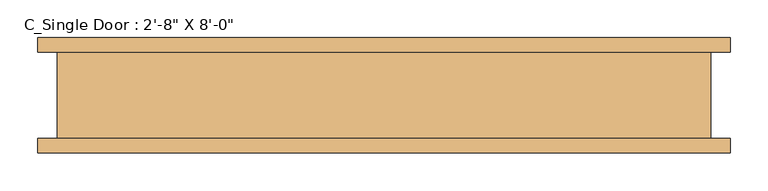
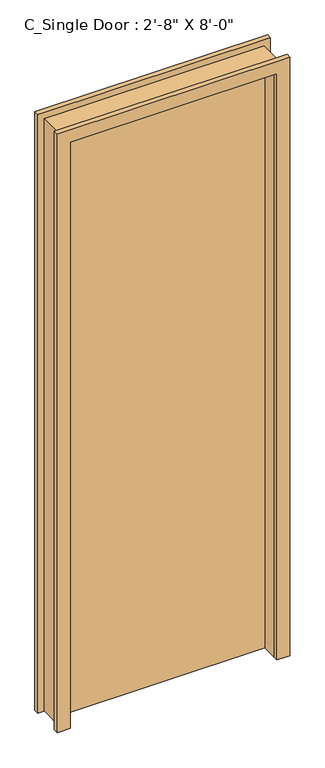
"""IFC4 building model written with IfcOpenShell, lengths in millimetres: door geometry."""

import ifcopenshell
import ifcopenshell.guid

model = None  # the IFC model being written
_history = None  # IfcOwnerHistory: only IFC2X3 demands one
_inside = {}  # id of a spatial element -> (the spatial element, [elements in it])
_under = {}  # id of a project, library or spatial element -> (it, [spatial elements below it])
_declared = {}  # id of a project -> (the project, [libraries it declares])
_typed = {}  # id of a type object -> (the type object, [elements of that type])
_made_of = {}  # id of a material, layer set ... -> (it, [elements and type objects made of it])


def new_model(schema):
    """Start an empty IFC model of exactly this schema.

    Asked for "IFC4X3", IfcOpenShell would pick the latest addendum, in which some entities
    have other attributes; the version numbers below select the first issue.
    IFC2X3 requires an IfcOwnerHistory on every rooted entity: one is made here for all.
    """
    global model, _history
    if schema == "IFC4X3":
        model = ifcopenshell.file(schema_version=(4, 3, 0, 0))
    else:
        model = ifcopenshell.file(schema=schema)
    _inside.clear()
    _under.clear()
    _declared.clear()
    _typed.clear()
    _made_of.clear()
    _history = None
    if model.schema == "IFC2X3":
        org = make("IfcOrganization", Name="unknown")
        user = make(
            "IfcPersonAndOrganization",
            ThePerson=make("IfcPerson", FamilyName="unknown"),
            TheOrganization=org,
        )
        app = make(
            "IfcApplication",
            ApplicationDeveloper=org,
            Version="unknown",
            ApplicationFullName="unknown",
            ApplicationIdentifier="unknown",
        )
        _history = make(
            "IfcOwnerHistory",
            OwningUser=user,
            OwningApplication=app,
            ChangeAction="ADDED",
            CreationDate=0,
        )
    return model


def make(cls, **values):
    """One entity of the class cls with the attributes given. An attribute that is None is left unset."""
    return model.create_entity(
        cls, **{name: value for name, value in values.items() if value is not None}
    )


def rooted(cls, **values):
    """An entity with a GlobalId (a new one), such as an element, a storey or a relation."""
    return make(cls, GlobalId=ifcopenshell.guid.new(), OwnerHistory=_history, **values)


def si_unit(unit_type, name, prefix=None):
    """IfcSIUnit, for example si_unit("LENGTHUNIT", "METRE", prefix="MILLI")."""
    return make("IfcSIUnit", UnitType=unit_type, Prefix=prefix, Name=name)


def assignment(units):
    """IfcUnitAssignment: the units of a project."""
    return None if units is None else make("IfcUnitAssignment", Units=units)


def point(xyz):
    """IfcCartesianPoint."""
    return None if xyz is None else make("IfcCartesianPoint", Coordinates=xyz)


def direction(xyz):
    """IfcDirection."""
    return None if xyz is None else make("IfcDirection", DirectionRatios=xyz)


def frame(location, z_axis=None, x_axis=None):
    """IfcAxis2Placement3D, a coordinate frame: its origin and axes. An axis left out is left unset."""
    return make(
        "IfcAxis2Placement3D",
        Location=point(location),
        Axis=direction(z_axis),
        RefDirection=direction(x_axis),
    )


def origin():
    """The frame at (0, 0, 0) with its axes left unset."""
    return frame((0.0, 0.0, 0.0))


def origin_with_axes():
    """The frame at (0, 0, 0) with the z axis (0, 0, 1) and the x axis (1, 0, 0) written out."""
    return frame((0.0, 0.0, 0.0), z_axis=(0.0, 0.0, 1.0), x_axis=(1.0, 0.0, 0.0))


def place(relative_to, where):
    """IfcLocalPlacement: puts the frame where relative to a parent placement (None: the world)."""
    return make(
        "IfcLocalPlacement", PlacementRelTo=relative_to, RelativePlacement=where
    )


def context(
    kind, dimensions, precision=None, world=None, true_north=None, identifier=None
):
    """IfcGeometricRepresentationContext, for example the 3D "Model" context."""
    return make(
        "IfcGeometricRepresentationContext",
        ContextIdentifier=identifier,
        ContextType=kind,
        CoordinateSpaceDimension=dimensions,
        Precision=precision,
        WorldCoordinateSystem=world,
        TrueNorth=true_north,
    )


def project(units=None, contexts=None):
    """IfcProject with its units and contexts."""
    return rooted(
        "IfcProject",
        Name="project",
        RepresentationContexts=contexts,
        UnitsInContext=assignment(units),
    )


def spatial(cls, under=None, at=None, **own):
    """A site, building, storey or space (cls), placed at a placement, below another one or the project."""
    s = rooted(cls, ObjectPlacement=at, **own)
    if under is not None:
        _under.setdefault(under.id(), (under, []))[1].append(s)
    return s


def polyline(points):
    """IfcPolyline through the points."""
    return make("IfcPolyline", Points=[point(p) for p in points])


def outline(outer, holes=None, kind="AREA"):
    """IfcArbitraryClosedProfileDef: a profile drawn as a closed curve; with holes, ...WithVoids."""
    if holes is None:
        return make("IfcArbitraryClosedProfileDef", ProfileType=kind, OuterCurve=outer)
    return make(
        "IfcArbitraryProfileDefWithVoids",
        ProfileType=kind,
        OuterCurve=outer,
        InnerCurves=holes,
    )


def extrude(swept, where, along, depth):
    """IfcExtrudedAreaSolid: the profile swept, set in the frame where, extruded along a direction by depth."""
    return make(
        "IfcExtrudedAreaSolid",
        SweptArea=swept,
        Position=where,
        ExtrudedDirection=direction(along),
        Depth=depth,
    )


def shape(context_of_items, identifier, shape_type, items):
    """IfcShapeRepresentation: the items that make up one representation, for example the "Body"."""
    return make(
        "IfcShapeRepresentation",
        ContextOfItems=context_of_items,
        RepresentationIdentifier=identifier,
        RepresentationType=shape_type,
        Items=items,
    )


def source(mapping_origin, context_of_items, identifier, shape_type, items):
    """IfcRepresentationMap: a shape defined once, which mapped items show again and again."""
    return make(
        "IfcRepresentationMap",
        MappingOrigin=mapping_origin,
        MappedRepresentation=shape(context_of_items, identifier, shape_type, items),
    )


def transform(
    local_origin,
    x_axis=None,
    y_axis=None,
    z_axis=None,
    scale=None,
    scale2=None,
    scale3=None,
    uniform=True,
):
    """IfcCartesianTransformationOperator3D, or its non-uniform kind. x_axis, y_axis, z_axis: its Axis1, 2, 3."""
    if uniform:
        return make(
            "IfcCartesianTransformationOperator3D",
            Axis1=direction(x_axis),
            Axis2=direction(y_axis),
            LocalOrigin=point(local_origin),
            Scale=scale,
            Axis3=direction(z_axis),
        )
    return make(
        "IfcCartesianTransformationOperator3DnonUniform",
        Axis1=direction(x_axis),
        Axis2=direction(y_axis),
        LocalOrigin=point(local_origin),
        Scale=scale,
        Axis3=direction(z_axis),
        Scale2=scale2,
        Scale3=scale3,
    )


def mapped(mapping_source, mapping_target):
    """IfcMappedItem: shows the shape of a source again, moved by a transform."""
    return make(
        "IfcMappedItem", MappingSource=mapping_source, MappingTarget=mapping_target
    )


def made_of(thing, what):
    """Note that an element or type object is made of a material, layer set ...; save() writes the relation."""
    if what is not None:
        _made_of.setdefault(what.id(), (what, []))[1].append(thing)
    return thing


def element(
    cls,
    number,
    at=None,
    inside=None,
    cuts=None,
    type_object=None,
    material=None,
    context=None,
    identifier="Body",
    shape_type=None,
    held_by="IfcProductDefinitionShape",
    body=None,
    shapes=None,
    **own,
):
    """One element of the class cls, such as IfcWall. Its Tag is "e" and its number.

    at: its placement. inside: the storey or other place that contains it. cuts: it is an
    opening in that element (IfcRelVoidsElement). A single representation is given by context,
    identifier, shape_type and body (its items); several are given by shapes. held_by: the class
    of the entity that holds the representations. save() writes the other relations.
    """
    e = rooted(cls, Tag="e%d" % number, ObjectPlacement=at, **own)
    if body is not None:
        shapes = [shape(context, identifier, shape_type, body)]
    if shapes is not None:
        e.Representation = make(held_by, Representations=shapes)
    if inside is not None:
        _inside.setdefault(inside.id(), (inside, []))[1].append(e)
    if cuts is not None:
        rooted(
            "IfcRelVoidsElement", RelatingBuildingElement=cuts, RelatedOpeningElement=e
        )
    if type_object is not None:
        _typed.setdefault(type_object.id(), (type_object, []))[1].append(e)
    return made_of(e, material)


def aggregate(whole, parts):
    """IfcRelAggregates: a whole, such as a stair, and the parts it consists of."""
    return rooted("IfcRelAggregates", RelatingObject=whole, RelatedObjects=parts)


def save(model, path):
    """Write the relations noted so far, then the file.

    IfcRelAggregates (storeys below a building ...), IfcRelContainedInSpatialStructure (elements
    in a storey), IfcRelDefinesByType, IfcRelAssociatesMaterial and IfcRelDeclares: one each for
    every whole, place, type object, material and project.
    """
    for whole, parts in _under.values():
        aggregate(whole, parts)
    for where, things in _inside.values():
        rooted(
            "IfcRelContainedInSpatialStructure",
            RelatedElements=things,
            RelatingStructure=where,
        )
    for kind, things in _typed.values():
        rooted("IfcRelDefinesByType", RelatedObjects=things, RelatingType=kind)
    for what, things in _made_of.values():
        rooted("IfcRelAssociatesMaterial", RelatedObjects=things, RelatingMaterial=what)
    for by, libraries in _declared.values():
        rooted("IfcRelDeclares", RelatingContext=by, RelatedDefinitions=libraries)
    model.write(path)


def door_87e8dd14(model_context):
    return source(origin(), model_context, "Body", "SweptSolid", [
        extrude(outline(polyline([(406.4, 57.15), (406.4, 6.35), (-406.4, 6.35), (-406.4, 57.15), (406.4, 57.15)])), origin_with_axes(), (0.0, 0.0, 1.0), 2438.4),
        extrude(outline(polyline([(2438.4, -406.4), (2438.4, 406.4), (0.0, 406.4), (0.0, 457.2), (2489.2, 457.2), (2489.2, -457.2), (0.0, -457.2), (0.0, -406.4), (2438.4, -406.4)])), frame((0.0, 57.15, 0.0), z_axis=(0.0, 1.0, 0.0), x_axis=(0.0, 0.0, 1.0)), (0.0, 0.0, 1.0), 19.05),
        extrude(outline(polyline([(2438.4, -406.4), (2438.4, 406.4), (0.0, 406.4), (0.0, 457.2), (2489.2, 457.2), (2489.2, -457.2), (0.0, -457.2), (0.0, -406.4), (2438.4, -406.4)])), frame((0.0, -76.2, 0.0), z_axis=(0.0, 1.0, 0.0), x_axis=(0.0, 0.0, 1.0)), (0.0, 0.0, 1.0), 19.05),
        extrude(outline(polyline([(0.0, -406.4), (2438.4, -406.4), (2438.4, 406.4), (0.0, 406.4), (0.0, 431.8), (2463.8, 431.8), (2463.8, -431.8), (0.0, -431.8), (0.0, -406.4)])), frame((0.0, -57.15, 0.0), z_axis=(0.0, 1.0, 0.0), x_axis=(0.0, 0.0, 1.0)), (0.0, 0.0, 1.0), 114.3),
    ])


if __name__ == "__main__":
    model = new_model("IFC4")
    model_context = context("Model", 3, world=origin())
    ifc_project = project(units=[si_unit("LENGTHUNIT", "METRE", prefix="MILLI")], contexts=[model_context])
    site = spatial("IfcSite", under=ifc_project)
    building = spatial("IfcBuilding", under=site)
    placement = place(None, origin())
    door_shape = door_87e8dd14(model_context)
    element("IfcDoor", 1, ObjectType="C_Single Door : 2'-8\" X 8'-0\"", at=placement, inside=building, context=model_context, shape_type="MappedRepresentation", body=[
        mapped(door_shape, transform((0.0, 0.0, 0.0), x_axis=(1.0, 0.0, 0.0), y_axis=(0.0, 1.0, 0.0), z_axis=(0.0, 0.0, 1.0))),
    ])
    save(model, "model.ifc")
